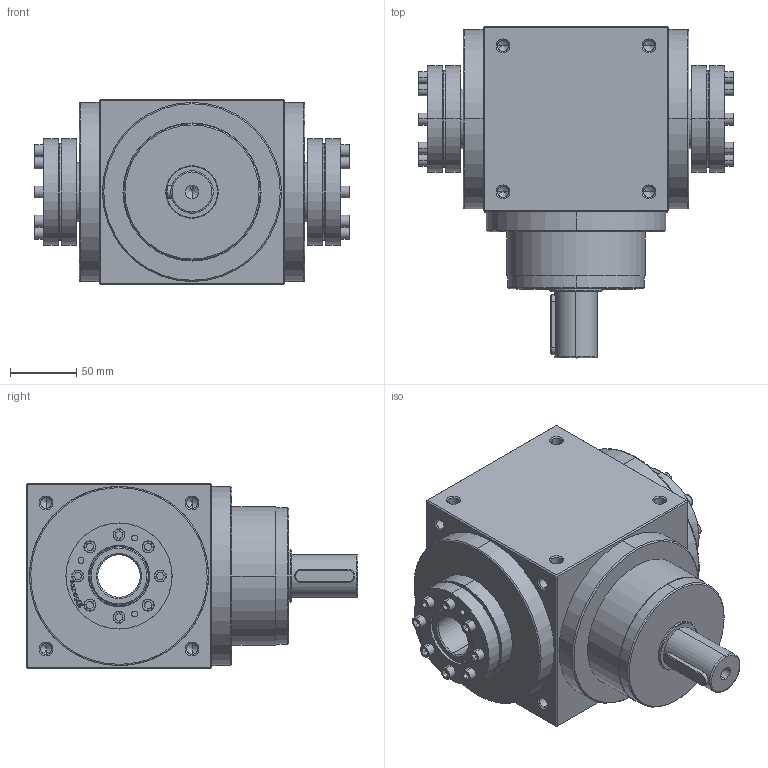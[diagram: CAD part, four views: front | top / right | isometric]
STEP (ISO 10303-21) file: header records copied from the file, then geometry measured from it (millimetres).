
FILE_DESCRIPTION (( 'STEP AP214' ), '1' );
FILE_NAME ('AT140-C-001.STEP', '2021-04-24T07:39:48', ( 'Microsoft' ), ( 'Microsoft China' ), 'SwSTEP 2.0', 'SolidWorks 2016', '' );
FILE_SCHEMA (( 'AUTOMOTIVE_DESIGN' ));
Length unit declared in the file: millimetre
Products named in the file (3): AT140-C-001; AT140-C-L1; 83_44x80
Assembly tree (3 placements, depth 2):
  AT140-C-001
    AT140-C-L1
    83_44x80  x2
Bounding box: 237.2 x 250 x 140 mm (x, y, z)
Volume: 3836257.3 mm3; surface area: 269529.6 mm2
Topology: 25 solids, 25 shells, 1209 faces, 2841 edges, 1699 vertices
Faces by surface type: cylinder 523, plane 302, cone 274, torus 64, bspline 46
Entity records: 21971 total; most frequent: CARTESIAN_POINT 5302, DIRECTION 3525, ORIENTED_EDGE 3414, EDGE_CURVE 1707, AXIS2_PLACEMENT_3D 1361, VERTEX_POINT 1035, EDGE_LOOP 838, VECTOR 803
